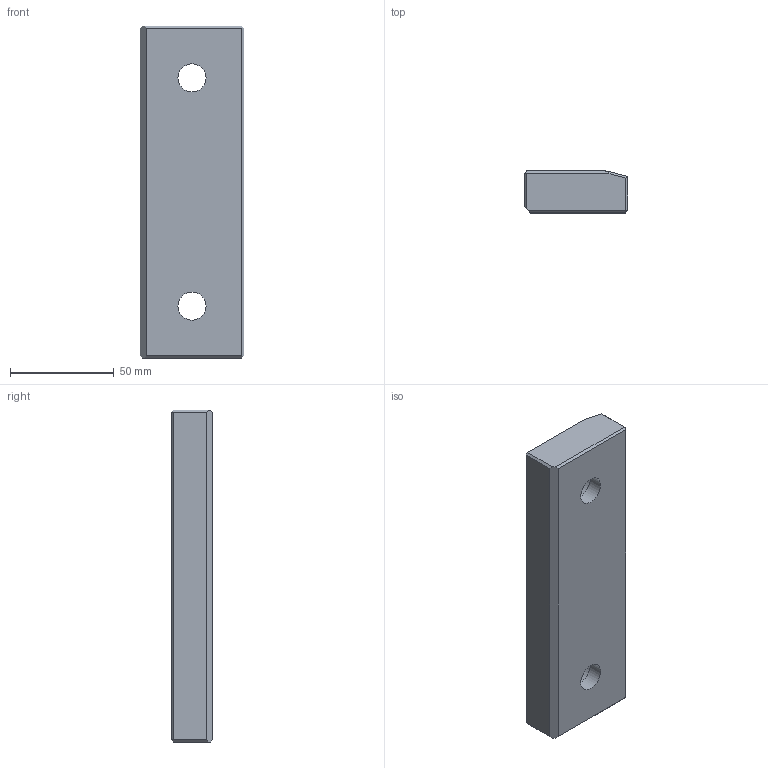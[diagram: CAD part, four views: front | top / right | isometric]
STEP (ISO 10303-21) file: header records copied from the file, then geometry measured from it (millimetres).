
FILE_DESCRIPTION(/* description */ ('Impex Ready, www.impex-ready.pl'),/* implementation_level */ '2;1');
FILE_NAME(/* name */ 'C:\Users\VIKKY\Nextcloud\SM\projekt 10 - części na stronę internetową\Pliki_3D_new\320 Płytki PG12\320 PG12_STEP\PG12.160050.ipt.step',/* time_stamp */ '2021-12-17T18:23:59+01:00',/* author */ ('SM'),/* organization */ (''),/* preprocessor_version */ 'ST-DEVELOPER v18.1',/* originating_system */ 'Autodesk Inventor 2021',/* authorisation */ '');
FILE_SCHEMA (('AUTOMOTIVE_DESIGN { 1 0 10303 214 3 1 1 }'));
Length unit declared in the file: millimetre
Products named in the file (1): PG12.160050
Bounding box: 50 x 20 x 160 mm (x, y, z)
Volume: 146607.3 mm3; surface area: 24947.4 mm2
Topology: 1 solids, 1 shells, 35 faces, 75 edges, 44 vertices
Faces by surface type: plane 26, cylinder 5, cone 4
Full cylindrical faces by diameter (mm): 13.5 x2, 20 x2
Entity records: 1023 total; most frequent: DIRECTION 163, CARTESIAN_POINT 155, ORIENTED_EDGE 150, EDGE_CURVE 75, LINE 59, VECTOR 59, AXIS2_PLACEMENT_3D 52, VERTEX_POINT 44
